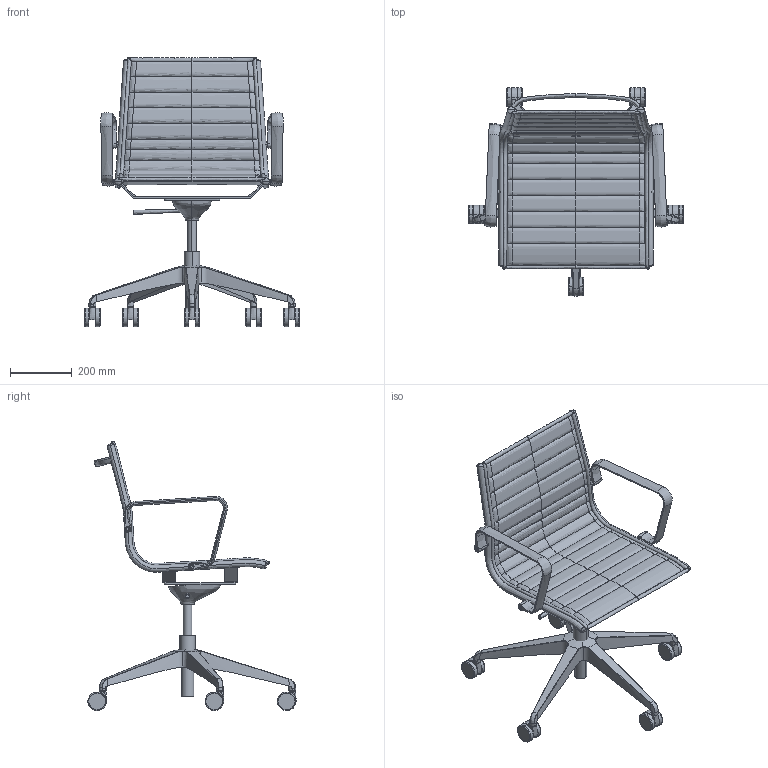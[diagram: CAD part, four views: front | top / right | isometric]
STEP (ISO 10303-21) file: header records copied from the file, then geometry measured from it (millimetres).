
FILE_DESCRIPTION(/* description */ (''),/* implementation_level */ '2;1');
FILE_NAME(/* name */ 'FLY711~1',/* time_stamp */ '2017-10-19T14:43:26+02:00',/* author */ (''),/* organization */ (''),/* preprocessor_version */ 'ST-DEVELOPER v15',/* originating_system */ '',/* authorisation */ '');
FILE_SCHEMA (('CONFIG_CONTROL_DESIGN'));
Length unit declared in the file: millimetre
Products named in the file (1): Document
Bounding box: 694.82 x 673.73 x 871.25 mm (x, y, z)
Volume: 2022294.3 mm3; surface area: 1634912.3 mm2
Topology: 11 solids, 48 shells, 507 faces, 1220 edges, 735 vertices
Faces by surface type: bspline 404, plane 103
Entity records: 35589 total; most frequent: CARTESIAN_POINT 28740, ORIENTED_EDGE 2192, EDGE_CURVE 1184, VERTEX_POINT 729, B_SPLINE_CURVE_WITH_KNOTS 540, EDGE_LOOP 519, ADVANCED_FACE 507, FACE_OUTER_BOUND 507
